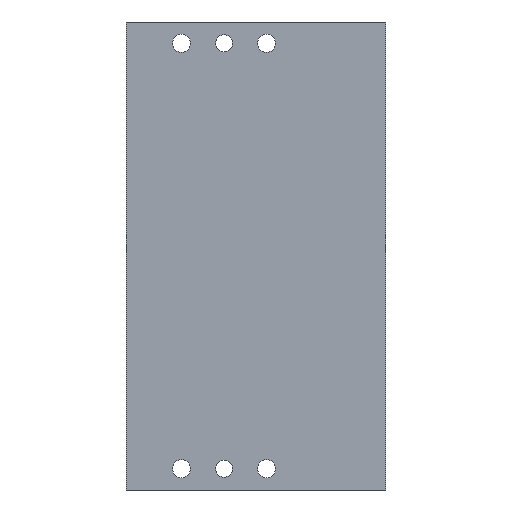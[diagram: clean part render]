
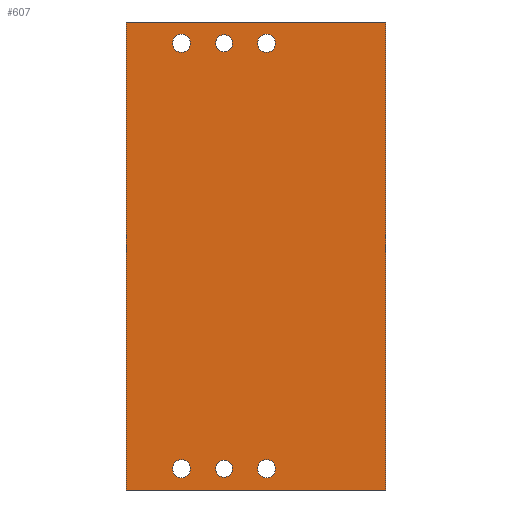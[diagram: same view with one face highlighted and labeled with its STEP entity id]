
A CAD part, left-side view. The second image highlights one B-rep face of the part: STEP entity #607.
In plain terms, the highlighted planar face has unit normal (-1, 0, 0).
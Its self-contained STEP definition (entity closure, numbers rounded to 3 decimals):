
#65=FACE_BOUND($,#197,.T.);
#66=FACE_BOUND($,#198,.T.);
#67=FACE_BOUND($,#199,.T.);
#68=FACE_BOUND($,#200,.T.);
#69=FACE_BOUND($,#201,.T.);
#70=FACE_BOUND($,#202,.T.);
#71=FACE_BOUND($,#203,.T.);
#95=CIRCLE($,#646,5.);
#97=CIRCLE($,#649,5.);
#99=CIRCLE($,#652,5.25);
#101=CIRCLE($,#655,5.25);
#103=CIRCLE($,#658,5.25);
#105=CIRCLE($,#661,5.25);
#197=EDGE_LOOP($,(#543));
#198=EDGE_LOOP($,(#544));
#199=EDGE_LOOP($,(#545));
#200=EDGE_LOOP($,(#546));
#201=EDGE_LOOP($,(#547));
#202=EDGE_LOOP($,(#548));
#203=EDGE_LOOP($,(#549,#550,#551,#552));
#227=LINE($,#893,#266);
#244=LINE($,#1003,#283);
#247=LINE($,#1007,#286);
#248=LINE($,#1009,#287);
#266=VECTOR($,#711,152.4);
#283=VECTOR($,#836,152.4);
#286=VECTOR($,#841,275.);
#287=VECTOR($,#844,275.);
#305=VERTEX_POINT($,#890);
#306=VERTEX_POINT($,#892);
#324=VERTEX_POINT($,#940);
#326=VERTEX_POINT($,#945);
#328=VERTEX_POINT($,#950);
#330=VERTEX_POINT($,#955);
#332=VERTEX_POINT($,#960);
#334=VERTEX_POINT($,#965);
#344=VERTEX_POINT($,#1000);
#345=VERTEX_POINT($,#1002);
#366=EDGE_CURVE($,#305,#306,#227,.T.);
#386=EDGE_CURVE($,#324,#324,#95,.T.);
#388=EDGE_CURVE($,#326,#326,#97,.T.);
#390=EDGE_CURVE($,#328,#328,#99,.T.);
#392=EDGE_CURVE($,#330,#330,#101,.T.);
#394=EDGE_CURVE($,#332,#332,#103,.T.);
#396=EDGE_CURVE($,#334,#334,#105,.T.);
#414=EDGE_CURVE($,#344,#345,#244,.T.);
#417=EDGE_CURVE($,#345,#305,#247,.T.);
#418=EDGE_CURVE($,#306,#344,#248,.T.);
#543=ORIENTED_EDGE($,*,*,#386,.T.);
#544=ORIENTED_EDGE($,*,*,#388,.T.);
#545=ORIENTED_EDGE($,*,*,#390,.T.);
#546=ORIENTED_EDGE($,*,*,#392,.T.);
#547=ORIENTED_EDGE($,*,*,#394,.T.);
#548=ORIENTED_EDGE($,*,*,#396,.T.);
#549=ORIENTED_EDGE($,*,*,#418,.F.);
#550=ORIENTED_EDGE($,*,*,#366,.F.);
#551=ORIENTED_EDGE($,*,*,#417,.F.);
#552=ORIENTED_EDGE($,*,*,#414,.F.);
#576=PLANE($,#675);
#607=ADVANCED_FACE($,(#65,#66,#67,#68,#69,#70,#71),#576,.T.);
#646=AXIS2_PLACEMENT_3D($,#941,#767,#768);
#649=AXIS2_PLACEMENT_3D($,#946,#773,#774);
#652=AXIS2_PLACEMENT_3D($,#951,#779,#780);
#655=AXIS2_PLACEMENT_3D($,#956,#785,#786);
#658=AXIS2_PLACEMENT_3D($,#961,#791,#792);
#661=AXIS2_PLACEMENT_3D($,#966,#797,#798);
#675=AXIS2_PLACEMENT_3D($,#1008,#842,#843);
#711=DIRECTION($,(0.,-1.,0.));
#767=DIRECTION('center_axis',(1.,0.,0.));
#768=DIRECTION('ref_axis',(0.,0.,-1.));
#773=DIRECTION('center_axis',(1.,0.,0.));
#774=DIRECTION('ref_axis',(0.,0.,-1.));
#779=DIRECTION('center_axis',(1.,0.,0.));
#780=DIRECTION('ref_axis',(0.,0.,-1.));
#785=DIRECTION('center_axis',(1.,0.,0.));
#786=DIRECTION('ref_axis',(0.,0.,-1.));
#791=DIRECTION('center_axis',(1.,0.,0.));
#792=DIRECTION('ref_axis',(0.,0.,-1.));
#797=DIRECTION('center_axis',(1.,0.,0.));
#798=DIRECTION('ref_axis',(0.,0.,-1.));
#836=DIRECTION($,(0.,1.,0.));
#841=DIRECTION($,(0.,0.,1.));
#842=DIRECTION('center_axis',(-1.,0.,0.));
#843=DIRECTION('ref_axis',(0.,-1.,0.));
#844=DIRECTION($,(0.,0.,-1.));
#890=CARTESIAN_POINT('',(0.,152.4,137.5));
#892=CARTESIAN_POINT('',(0.,0.,137.5));
#893=CARTESIAN_POINT($,(0.,152.4,137.5));
#940=CARTESIAN_POINT('',(0.,95.,130.));
#941=CARTESIAN_POINT('Origin',(0.,95.,125.));
#945=CARTESIAN_POINT('',(0.,95.,-120.));
#946=CARTESIAN_POINT('Origin',(0.,95.,-125.));
#950=CARTESIAN_POINT('',(0.,120.,-119.75));
#951=CARTESIAN_POINT('Origin',(0.,120.,-125.));
#955=CARTESIAN_POINT('',(0.,70.,130.25));
#956=CARTESIAN_POINT('Origin',(0.,70.,125.));
#960=CARTESIAN_POINT('',(0.,120.,130.25));
#961=CARTESIAN_POINT('Origin',(0.,120.,125.));
#965=CARTESIAN_POINT('',(0.,70.,-119.75));
#966=CARTESIAN_POINT('Origin',(0.,70.,-125.));
#1000=CARTESIAN_POINT('',(0.,0.,-137.5));
#1002=CARTESIAN_POINT('',(0.,152.4,-137.5));
#1003=CARTESIAN_POINT($,(0.,152.4,-137.5));
#1007=CARTESIAN_POINT($,(0.,152.4,0.));
#1008=CARTESIAN_POINT('Origin',(0.,152.4,0.));
#1009=CARTESIAN_POINT($,(0.,0.,0.));
